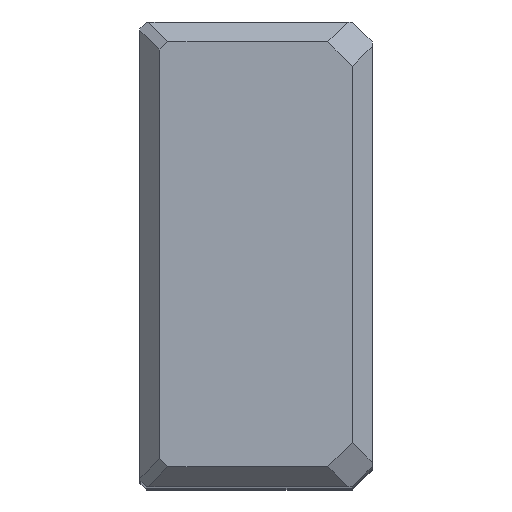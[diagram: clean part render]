
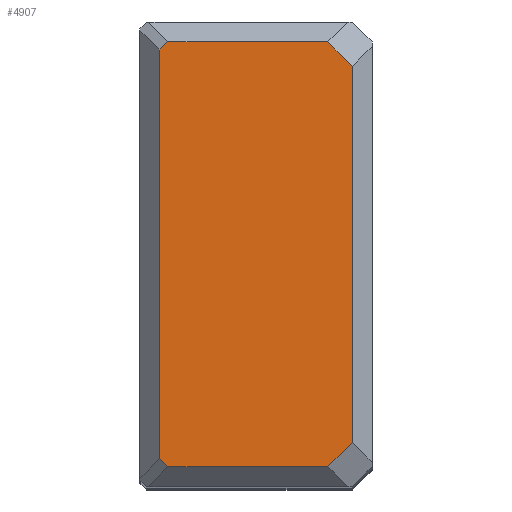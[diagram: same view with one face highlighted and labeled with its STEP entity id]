
A CAD part, top view. The second image highlights one B-rep face of the part: STEP entity #4907.
In plain terms, the highlighted planar face has unit normal (0, 0, 1).
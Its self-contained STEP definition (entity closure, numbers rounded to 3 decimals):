
#95=VERTEX_POINT(' ',#96);
#96=CARTESIAN_POINT('',(-3.,-28.326,0.));
#97=VERTEX_POINT(' ',#98);
#98=CARTESIAN_POINT('',(-6.674,-32.,0.));
#127=VERTEX_POINT(' ',#128);
#128=CARTESIAN_POINT('',(-3.,28.326,0.));
#135=VERTEX_POINT(' ',#136);
#136=CARTESIAN_POINT('',(-6.674,32.,0.));
#173=VERTEX_POINT(' ',#174);
#174=CARTESIAN_POINT('',(-30.775,-32.,0.));
#181=VERTEX_POINT(' ',#182);
#182=CARTESIAN_POINT('',(-32.,-30.775,0.));
#199=VERTEX_POINT(' ',#200);
#200=CARTESIAN_POINT('',(-32.,30.775,0.));
#203=VERTEX_POINT(' ',#204);
#204=CARTESIAN_POINT('',(-30.775,32.,0.));
#968=LINE('',#969,#970);
#969=CARTESIAN_POINT('',(12.663,-12.663,0.));
#970=VECTOR('',#971,1.);
#971=DIRECTION('',(0.707,0.707,0.));
#972=EDGE_CURVE(' ',#95,#97,#968,.F.);
#1098=LINE('',#1099,#1100);
#1099=CARTESIAN_POINT('',(-3.,-35.12,0.));
#1100=VECTOR('',#1101,1.);
#1101=DIRECTION('',(0.,1.,0.));
#1102=EDGE_CURVE(' ',#95,#127,#1098,.T.);
#1123=LINE('',#1124,#1125);
#1124=CARTESIAN_POINT('',(12.663,12.663,0.));
#1125=VECTOR('',#1126,1.);
#1126=DIRECTION('',(-0.707,0.707,0.));
#1127=EDGE_CURVE(' ',#135,#127,#1123,.F.);
#1312=LINE('',#1313,#1314);
#1313=CARTESIAN_POINT('',(-35.12,-32.,0.));
#1314=VECTOR('',#1315,1.);
#1315=DIRECTION('',(1.,0.,0.));
#1316=EDGE_CURVE(' ',#173,#97,#1312,.T.);
#1327=LINE('',#1328,#1329);
#1328=CARTESIAN_POINT('',(-31.388,-31.388,0.));
#1329=VECTOR('',#1330,1.);
#1330=DIRECTION('',(0.707,-0.707,0.));
#1331=EDGE_CURVE(' ',#173,#181,#1327,.F.);
#1419=LINE('',#1420,#1421);
#1420=CARTESIAN_POINT('',(-32.,-35.12,0.));
#1421=VECTOR('',#1422,1.);
#1422=DIRECTION('',(0.,1.,0.));
#1423=EDGE_CURVE(' ',#181,#199,#1419,.T.);
#1424=LINE('',#1425,#1426);
#1425=CARTESIAN_POINT('',(-31.388,31.388,0.));
#1426=VECTOR('',#1427,1.);
#1427=DIRECTION('',(-0.707,-0.707,0.));
#1428=EDGE_CURVE(' ',#199,#203,#1424,.F.);
#1429=LINE('',#1430,#1431);
#1430=CARTESIAN_POINT('',(-35.12,32.,0.));
#1431=VECTOR('',#1432,1.);
#1432=DIRECTION('',(1.,0.,0.));
#1433=EDGE_CURVE(' ',#135,#203,#1429,.F.);
#4892=ORIENTED_EDGE('',*,*,#1428,.F.);
#4893=ORIENTED_EDGE('',*,*,#1423,.F.);
#4894=ORIENTED_EDGE('',*,*,#1331,.F.);
#4895=ORIENTED_EDGE('',*,*,#1316,.T.);
#4896=ORIENTED_EDGE('',*,*,#972,.F.);
#4897=ORIENTED_EDGE('',*,*,#1102,.T.);
#4898=ORIENTED_EDGE('',*,*,#1127,.F.);
#4899=ORIENTED_EDGE('',*,*,#1433,.T.);
#4900=EDGE_LOOP('',(#4892,#4893,#4894,#4895,#4896,#4897,#4898,#4899));
#4901=FACE_OUTER_BOUND('',#4900,.T.);
#4902=PLANE('',#4903);
#4903=AXIS2_PLACEMENT_3D('',#4904,#4905,#4906);
#4904=CARTESIAN_POINT('',(-32.,0.,0.));
#4905=DIRECTION('',(0.,0.,1.));
#4906=DIRECTION('',(1.,0.,0.));
#4907=ADVANCED_FACE('',(#4901),#4902,.T.);
